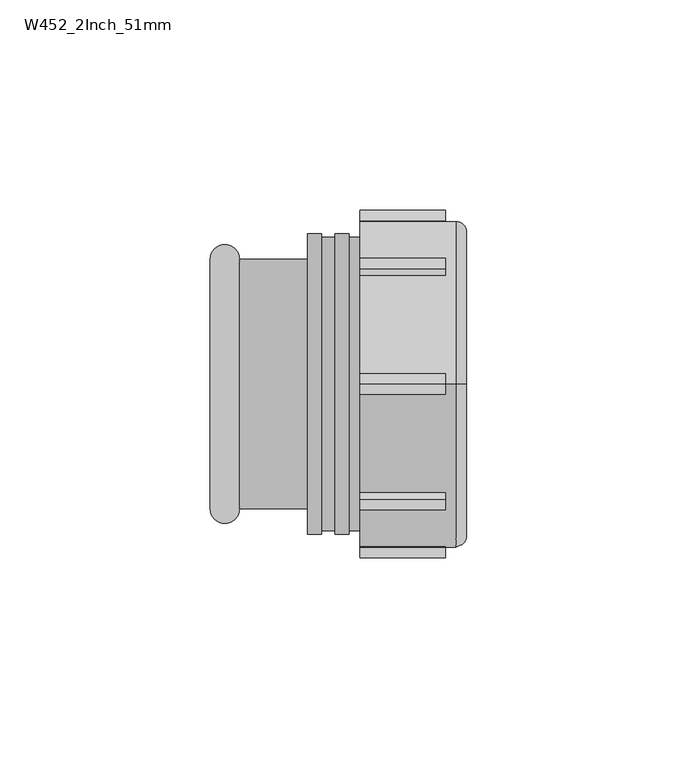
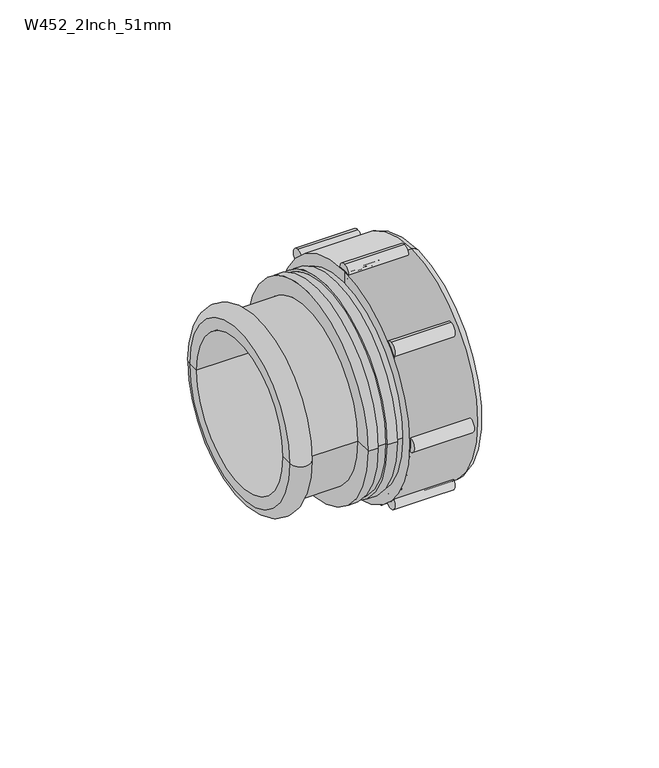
"""IFC4 building model written with IfcOpenShell, lengths in millimetres: pipe fitting geometry, Durapipe_PipeFitting_VulcatheneMechanical_GlassAdaptor_W45 : W452_2Inch_51mm."""

from ifc_helpers import new_model, si_unit, point, frame, frame_2d, origin, place, context, project, spatial, polyline, circle_curve, ellipse_curve, trimmed, segment, composite_curve, outline, extrude, source, transform, mapped, element, save
from ifc_brep_helpers import plane_surface, cylinder_surface, revolved_surface, advanced_brep


def w452_2inch_51mm_18f54544(model_context):
    return source(origin(), model_context, "Body", "SolidModel", [
        advanced_brep(
        [(26.6, 22.839549, 22.839549), (26.6, 21.2839141, 21.2839141), (26.6, -21.2839141, -21.2839141), (26.6, -22.839549, -22.839549), (21.0, 22.3445743, 22.3445743), (21.0, -22.3445743, -22.3445743), (19.6, 21.9203102, 21.9203102), (21.0, 21.9203102, 21.9203102), (21.0, -21.9203102, -21.9203102), (19.6, -21.9203102, -21.9203102), (19.6, -20.9303607, -20.9303607), (19.6, 20.9303607, 20.9303607), (21.9, -20.9303607, -20.9303607), (21.9, 20.9303607, 20.9303607), (21.9, -20.647518, -20.647518), (21.9, 20.647518, 20.647518), (24.1, 21.2839141, 21.2839141), (24.1, 20.647518, 20.647518), (24.1, -20.647518, -20.647518), (24.1, -21.2839141, -21.2839141)],
        [
            (0, 1),
            (1, 2, circle_curve(frame((26.6, 0.0, 0.0), z_axis=(-1.0, 0.0, 0.0), x_axis=(0.0, -0.7071067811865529, -0.7071067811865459)), 30.1)),
            (2, 3),
            (3, 0, circle_curve(frame((26.6, 0.0, 0.0), z_axis=(1.0, 0.0, 0.0), x_axis=(0.0, -0.7071067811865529, -0.7071067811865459)), 32.3)),
            (2, 1, circle_curve(frame((26.6, 0.0, 0.0), z_axis=(-1.0, 0.0, 0.0), x_axis=(0.0, -0.7071067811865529, -0.7071067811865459)), 30.1)),
            (0, 3, circle_curve(frame((26.6, 0.0, 0.0), z_axis=(1.0, 0.0, 0.0), x_axis=(0.0, -0.7071067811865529, -0.7071067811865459)), 32.3)),
            (4, 0),
            (3, 5),
            (5, 4, circle_curve(frame((21.0, 0.0, 0.0), z_axis=(1.0, 0.0, 0.0), x_axis=(0.0, -0.7071067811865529, -0.7071067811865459)), 31.6)),
            (4, 5, circle_curve(frame((21.0, 0.0, 0.0), z_axis=(1.0, 0.0, 0.0), x_axis=(0.0, -0.7071067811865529, -0.7071067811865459)), 31.6)),
            (6, 7),
            (7, 8, circle_curve(frame((21.0, 0.0, 0.0), z_axis=(-1.0, 0.0, 0.0), x_axis=(0.0, -0.7071067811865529, -0.7071067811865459)), 31.0)),
            (8, 9),
            (9, 6, circle_curve(frame((19.6, 0.0, 0.0), z_axis=(1.0, 0.0, 0.0), x_axis=(0.0, -0.7071067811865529, -0.7071067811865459)), 31.0)),
            (8, 7, circle_curve(frame((21.0, 0.0, 0.0), z_axis=(-1.0, 0.0, 0.0), x_axis=(0.0, -0.7071067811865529, -0.7071067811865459)), 31.0)),
            (6, 9, circle_curve(frame((19.6, 0.0, 0.0), z_axis=(1.0, 0.0, 0.0), x_axis=(0.0, -0.7071067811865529, -0.7071067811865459)), 31.0)),
            (9, 10),
            (10, 11, circle_curve(frame((19.6, 0.0, 0.0), z_axis=(1.0, 0.0, 0.0), x_axis=(0.0, -0.7071067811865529, -0.7071067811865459)), 29.6)),
            (11, 6),
            (11, 10, circle_curve(frame((19.6, 0.0, 0.0), z_axis=(1.0, 0.0, 0.0), x_axis=(0.0, -0.7071067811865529, -0.7071067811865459)), 29.6)),
            (10, 12),
            (12, 13, circle_curve(frame((21.9, 0.0, 0.0), z_axis=(1.0, 0.0, 0.0), x_axis=(0.0, -0.7071067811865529, -0.7071067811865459)), 29.6)),
            (13, 11),
            (13, 12, circle_curve(frame((21.9, 0.0, 0.0), z_axis=(1.0, 0.0, 0.0), x_axis=(0.0, -0.7071067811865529, -0.7071067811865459)), 29.6)),
            (12, 14),
            (14, 15, circle_curve(frame((21.9, 0.0, 0.0), z_axis=(1.0, 0.0, 0.0), x_axis=(0.0, -0.7071067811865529, -0.7071067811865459)), 29.2)),
            (15, 13),
            (15, 14, circle_curve(frame((21.9, 0.0, 0.0), z_axis=(1.0, 0.0, 0.0), x_axis=(0.0, -0.7071067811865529, -0.7071067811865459)), 29.2)),
            (16, 17),
            (17, 18, circle_curve(frame((24.1, 0.0, 0.0), z_axis=(-1.0, 0.0, 0.0), x_axis=(0.0, -0.7071067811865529, -0.7071067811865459)), 29.2)),
            (18, 19),
            (19, 16, circle_curve(frame((24.1, 0.0, 0.0), z_axis=(1.0, 0.0, 0.0), x_axis=(0.0, -0.7071067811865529, -0.7071067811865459)), 30.1)),
            (18, 17, circle_curve(frame((24.1, 0.0, 0.0), z_axis=(-1.0, 0.0, 0.0), x_axis=(0.0, -0.7071067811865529, -0.7071067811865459)), 29.2)),
            (16, 19, circle_curve(frame((24.1, 0.0, 0.0), z_axis=(1.0, 0.0, 0.0), x_axis=(0.0, -0.7071067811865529, -0.7071067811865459)), 30.1)),
            (1, 16),
            (19, 2),
            (14, 18),
            (17, 15),
            (5, 8),
            (7, 4),
        ],
        [
            plane_surface(frame((26.6, 0.0, 0.0), z_axis=(1.0, 0.0, 0.0), x_axis=(0.0, -0.707106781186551, -0.707106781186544))),
            revolved_surface(polyline([(26.6, -22.839549, -22.839549), (21.0, -22.3445743, -22.3445743)]), (31.6, 0.0, 0.0), (-1.0000000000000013, 0.0, 0.0)),
            cylinder_surface(frame((17.5293443, 0.0, 0.0), z_axis=(-1.0000000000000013, 0.0, 0.0), x_axis=(0.0, -0.7071067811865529, -0.7071067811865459)), 31.0),
            plane_surface(frame((19.6, 0.0, 0.0), z_axis=(-1.0, 0.0, 0.0), x_axis=(0.0, -0.707106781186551, -0.707106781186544))),
            revolved_surface(polyline([(19.60000000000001, -20.930360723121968, -20.93036072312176), (21.900000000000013, -20.930360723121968, -20.93036072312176)]), (16.107009, 0.0, 0.0), (-1.0000000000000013, 0.0, 0.0)),
            plane_surface(frame((21.9, 0.0, 0.0), z_axis=(-1.0, 0.0, 0.0), x_axis=(0.0, -0.707106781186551, -0.707106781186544))),
            plane_surface(frame((24.1, 0.0, 0.0), z_axis=(1.0, 0.0, 0.0), x_axis=(0.0, -0.707106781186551, -0.707106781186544))),
            revolved_surface(polyline([(24.09999999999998, -21.283914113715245, -21.28391411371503), (26.599999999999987, -21.283914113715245, -21.28391411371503)]), (31.6, 0.0, 0.0), (-1.0000000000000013, 0.0, 0.0)),
            revolved_surface(polyline([(21.899999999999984, -20.647518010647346, -20.64751801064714), (24.09999999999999, -20.647518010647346, -20.64751801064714)]), (28.1661924, 0.0, 0.0), (-1.0000000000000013, 0.0, 0.0)),
            plane_surface(frame((21.0, 0.0, 0.0), z_axis=(-1.0, 0.0, 0.0), x_axis=(0.0, -0.707106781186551, -0.707106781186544))),
        ],
        [
            (0, [[1, 2, 3, 4]]),
            (0, [[5, -1, 6, -3]]),
            (1, [[7, -4, 8, 9]]),
            (1, [[-8, -6, -7, 10]]),
            (2, [[11, 12, 13, 14]]),
            (2, [[15, -11, 16, -13]]),
            (3, [[17, 18, 19, -14]]),
            (3, [[-19, 20, -17, -16]]),
            (4, [[-18, 21, 22, 23]]),
            (4, [[24, -21, -20, -23]]),
            (5, [[25, 26, 27, -22]]),
            (5, [[-27, 28, -25, -24]]),
            (6, [[29, 30, 31, 32]]),
            (6, [[-31, 33, -29, 34]]),
            (7, [[35, -32, 36, -2]]),
            (7, [[-36, -34, -35, -5]]),
            (8, [[-26, 37, -30, 38]]),
            (8, [[-33, -37, -28, -38]]),
            (9, [[39, -12, 40, -9]]),
            (9, [[-40, -15, -39, -10]]),
        ],
    ),
        advanced_brep(
        [(5.1, 0.0, 38.8), (28.0, 0.0, 38.8), (28.0, 0.0, -38.8), (5.1, 0.0, -38.8), (5.1, 0.0, 33.0), (5.1, 0.0, -33.0), (30.5, 0.0, 36.3), (30.5, 0.0, 31.0), (30.5, 0.0, -31.0), (30.5, 0.0, -36.3), (26.6, 0.0, 33.0), (26.6, 0.0, -33.0), (26.6, 0.0, 31.0), (26.6, 0.0, -31.0)],
        [
            (0, 1),
            (1, 2, circle_curve(frame((28.0, 0.0, 0.0), z_axis=(-1.0, 0.0, 0.0), x_axis=(0.0, 0.0, -1.0000000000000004)), 38.8)),
            (2, 3),
            (3, 0, circle_curve(frame((5.1, 0.0, 0.0), z_axis=(1.0, 0.0, 0.0), x_axis=(0.0, 0.0, -1.0000000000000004)), 38.8)),
            (2, 1, circle_curve(frame((28.0, 0.0, 0.0), z_axis=(-1.0, 0.0, 0.0), x_axis=(0.0, 0.0, -1.0000000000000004)), 38.8)),
            (0, 3, circle_curve(frame((5.1, 0.0, 0.0), z_axis=(1.0, 0.0, 0.0), x_axis=(0.0, 0.0, -1.0000000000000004)), 38.8)),
            (4, 0),
            (3, 5),
            (5, 4, circle_curve(frame((5.1, 0.0, 0.0), z_axis=(1.0, 0.0, 0.0), x_axis=(0.0, 0.0, -1.0000000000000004)), 33.0)),
            (4, 5, circle_curve(frame((5.1, 0.0, 0.0), z_axis=(1.0, 0.0, 0.0), x_axis=(0.0, 0.0, -1.0000000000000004)), 33.0)),
            (6, 7),
            (7, 8, circle_curve(frame((30.5, 0.0, 0.0), z_axis=(-1.0, 0.0, 0.0), x_axis=(0.0, 0.0, -1.0000000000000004)), 31.0)),
            (8, 9),
            (9, 6, circle_curve(frame((30.5, 0.0, 0.0), z_axis=(1.0, 0.0, 0.0), x_axis=(0.0, 0.0, -1.0000000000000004)), 36.3)),
            (8, 7, circle_curve(frame((30.5, 0.0, 0.0), z_axis=(-1.0, 0.0, 0.0), x_axis=(0.0, 0.0, -1.0000000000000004)), 31.0)),
            (6, 9, circle_curve(frame((30.5, 0.0, 0.0), z_axis=(1.0, 0.0, 0.0), x_axis=(0.0, 0.0, -1.0000000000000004)), 36.3)),
            (1, 6, circle_curve(frame((28.0, 0.0, 36.3), z_axis=(0.0, 1.0000000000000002, 0.0), x_axis=(1.0000000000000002, 0.0, 0.0)), 2.5)),
            (9, 2, circle_curve(frame((28.0, 0.0, -36.3), z_axis=(0.0, 1.0000000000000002, 0.0), x_axis=(1.0000000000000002, 0.0, 0.0)), 2.5)),
            (10, 4),
            (5, 11),
            (11, 10, circle_curve(frame((26.6, 0.0, 0.0), z_axis=(1.0, 0.0, 0.0), x_axis=(0.0, 0.0, -1.0000000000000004)), 33.0)),
            (10, 11, circle_curve(frame((26.6, 0.0, 0.0), z_axis=(1.0, 0.0, 0.0), x_axis=(0.0, 0.0, -1.0000000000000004)), 33.0)),
            (12, 10),
            (11, 13),
            (13, 12, circle_curve(frame((26.6, 0.0, 0.0), z_axis=(1.0, 0.0, 0.0), x_axis=(0.0, 0.0, -1.0000000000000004)), 31.0)),
            (12, 13, circle_curve(frame((26.6, 0.0, 0.0), z_axis=(1.0, 0.0, 0.0), x_axis=(0.0, 0.0, -1.0000000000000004)), 31.0)),
            (7, 12),
            (13, 8),
        ],
        [
            cylinder_surface(frame((1591.3018184, 0.0, 0.0), z_axis=(-1.0000000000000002, 0.0, 0.0), x_axis=(0.0, 0.0, -1.0000000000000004)), 38.8),
            plane_surface(frame((5.1, 0.0, 0.0), z_axis=(-1.0, 0.0, 0.0), x_axis=(0.0, 0.0, -1.0))),
            plane_surface(frame((30.5, 0.0, 0.0), z_axis=(1.0, 0.0, 0.0), x_axis=(0.0, 0.0, -1.0))),
            revolved_surface(trimmed(ellipse_curve(frame((28.0, 0.0, -36.3), z_axis=(0.0, 1.0000000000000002, 0.0), x_axis=(1.0000000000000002, 0.0, 0.0)), 2.5, 2.5), [point((30.5, 0.0, -36.3))], [point((28.0, 0.0, -38.8))], True, "CARTESIAN"), (1591.3018184, 0.0, 0.0), (-1.0000000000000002, 0.0, 0.0)),
            revolved_surface(polyline([(5.0999999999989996, 0.0, -33.000000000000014), (26.599999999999, 0.0, -33.000000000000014)]), (1591.3018184, 0.0, 0.0), (-1.0000000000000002, 0.0, 0.0)),
            plane_surface(frame((26.6, 0.0, 0.0), z_axis=(-1.0, 0.0, 0.0), x_axis=(0.0, 0.0, -1.0))),
            revolved_surface(polyline([(26.599999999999, 0.0, -31.000000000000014), (30.49999999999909, 0.0, -31.000000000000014)]), (1591.3018184, 0.0, 0.0), (-1.0000000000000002, 0.0, 0.0)),
        ],
        [
            (0, [[1, 2, 3, 4]]),
            (0, [[-3, 5, -1, 6]]),
            (1, [[7, -4, 8, 9]]),
            (1, [[-8, -6, -7, 10]]),
            (2, [[11, 12, 13, 14]]),
            (2, [[-13, 15, -11, 16]]),
            (3, [[17, -14, 18, -2]]),
            (3, [[-18, -16, -17, -5]]),
            (4, [[19, -9, 20, 21]]),
            (4, [[-20, -10, -19, 22]]),
            (5, [[23, -21, 24, 25]]),
            (5, [[-24, -22, -23, 26]]),
            (6, [[27, -25, 28, -12]]),
            (6, [[-28, -26, -27, -15]]),
        ],
    ),
        extrude(outline(composite_curve([segment(trimmed(circle_curve(frame_2d((-38.8, 0.0)), 2.5), [point((-38.8, 2.5))], [point((-38.8, -2.5))], False, "CARTESIAN"), True, "CONTINUOUS"), segment(trimmed(circle_curve(frame_2d((-38.8, 0.0)), 2.5), [point((-38.8, -2.5))], [point((-38.8, 2.5))], False, "CARTESIAN"), True, "CONTINUOUS")], self_intersect=False)), frame((5.1, 0.0, 0.0), z_axis=(1.0, 0.0, 0.0), x_axis=(0.0, 1.0, 0.0)), (0.0, 0.0, 1.0), 20.4),
        extrude(outline(composite_curve([segment(trimmed(circle_curve(frame_2d((-27.4357431, -27.4357431)), 2.5), [point((-27.4357431, -24.9357431))], [point((-27.4357431, -29.9357431))], False, "CARTESIAN"), True, "CONTINUOUS"), segment(trimmed(circle_curve(frame_2d((-27.4357431, -27.4357431)), 2.5), [point((-27.4357431, -29.9357431))], [point((-27.4357431, -24.9357431))], False, "CARTESIAN"), True, "CONTINUOUS")], self_intersect=False)), frame((5.1, 0.0, 0.0), z_axis=(1.0, 0.0, 0.0), x_axis=(0.0, 1.0, 0.0)), (0.0, 0.0, 1.0), 20.4),
        extrude(outline(composite_curve([segment(trimmed(circle_curve(frame_2d((0.0, -38.8)), 2.5), [point((0.0, -36.3))], [point((0.0, -41.3))], False, "CARTESIAN"), True, "CONTINUOUS"), segment(trimmed(circle_curve(frame_2d((0.0, -38.8)), 2.5), [point((0.0, -41.3))], [point((0.0, -36.3))], False, "CARTESIAN"), True, "CONTINUOUS")], self_intersect=False)), frame((5.1, 0.0, 0.0), z_axis=(1.0, 0.0, 0.0), x_axis=(0.0, 1.0, 0.0)), (0.0, 0.0, 1.0), 20.4),
        extrude(outline(composite_curve([segment(trimmed(circle_curve(frame_2d((27.4357431, -27.4357431)), 2.5), [point((27.4357431, -24.9357431))], [point((27.4357431, -29.9357431))], False, "CARTESIAN"), True, "CONTINUOUS"), segment(trimmed(circle_curve(frame_2d((27.4357431, -27.4357431)), 2.5), [point((27.4357431, -29.9357431))], [point((27.4357431, -24.9357431))], False, "CARTESIAN"), True, "CONTINUOUS")], self_intersect=False)), frame((5.1, 0.0, 0.0), z_axis=(1.0, 0.0, 0.0), x_axis=(0.0, 1.0, 0.0)), (0.0, 0.0, 1.0), 20.4),
        extrude(outline(composite_curve([segment(trimmed(circle_curve(frame_2d((38.8, 0.0)), 2.5), [point((38.8, 2.5))], [point((38.8, -2.5))], False, "CARTESIAN"), True, "CONTINUOUS"), segment(trimmed(circle_curve(frame_2d((38.8, 0.0)), 2.5), [point((38.8, -2.5))], [point((38.8, 2.5))], False, "CARTESIAN"), True, "CONTINUOUS")], self_intersect=False)), frame((5.1, 0.0, 0.0), z_axis=(1.0, 0.0, 0.0), x_axis=(0.0, 1.0, 0.0)), (0.0, 0.0, 1.0), 20.4),
        extrude(outline(composite_curve([segment(trimmed(circle_curve(frame_2d((27.4357431, 27.4357431)), 2.5), [point((27.4357431, 29.9357431))], [point((27.4357431, 24.9357431))], False, "CARTESIAN"), True, "CONTINUOUS"), segment(trimmed(circle_curve(frame_2d((27.4357431, 27.4357431)), 2.5), [point((27.4357431, 24.9357431))], [point((27.4357431, 29.9357431))], False, "CARTESIAN"), True, "CONTINUOUS")], self_intersect=False)), frame((5.1, 0.0, 0.0), z_axis=(1.0, 0.0, 0.0), x_axis=(0.0, 1.0, 0.0)), (0.0, 0.0, 1.0), 20.4),
        extrude(outline(composite_curve([segment(trimmed(circle_curve(frame_2d((0.0, 38.8)), 2.5), [point((0.0, 41.3))], [point((0.0, 36.3))], False, "CARTESIAN"), True, "CONTINUOUS"), segment(trimmed(circle_curve(frame_2d((0.0, 38.8)), 2.5), [point((0.0, 36.3))], [point((0.0, 41.3))], False, "CARTESIAN"), True, "CONTINUOUS")], self_intersect=False)), frame((5.1, 0.0, 0.0), z_axis=(1.0, 0.0, 0.0), x_axis=(0.0, 1.0, 0.0)), (0.0, 0.0, 1.0), 20.4),
        extrude(outline(composite_curve([segment(trimmed(circle_curve(frame_2d((-27.4357431, 27.4357431)), 2.5), [point((-27.4357431, 29.9357431))], [point((-27.4357431, 24.9357431))], False, "CARTESIAN"), True, "CONTINUOUS"), segment(trimmed(circle_curve(frame_2d((-27.4357431, 27.4357431)), 2.5), [point((-27.4357431, 24.9357431))], [point((-27.4357431, 29.9357431))], False, "CARTESIAN"), True, "CONTINUOUS")], self_intersect=False)), frame((5.1, 0.0, 0.0), z_axis=(1.0, 0.0, 0.0), x_axis=(0.0, 1.0, 0.0)), (0.0, 0.0, 1.0), 20.4),
        advanced_brep(
        [(-1.0, -30.45, 0.0), (-1.0, 30.45, 0.0), (-1.0, 25.65, 0.0), (-1.0, -25.65, 0.0), (26.5, -30.45, 0.0), (26.5, 30.45, 0.0), (26.5, -34.9, 0.0), (26.5, 34.9, 0.0), (2.5, -34.9, 0.0), (2.5, 34.9, 0.0), (2.5, -35.7, 0.0), (2.5, 35.7, 0.0), (-0.8, -35.7, 0.0), (-0.8, 35.7, 0.0), (-0.8, -34.9, 0.0), (-0.8, 34.9, 0.0), (-4.0, -34.9, 0.0), (-4.0, 34.9, 0.0), (-4.0, -35.7, 0.0), (-4.0, 35.7, 0.0), (-7.3, -35.7, 0.0), (-7.3, 35.7, 0.0), (-7.3, -29.65, 0.0), (-7.3, 29.65, 0.0), (-23.5, -29.65, 0.0), (-23.5, 29.65, 0.0), (-30.5, -29.65, 0.0), (-30.5, 29.65, 0.0), (-30.5, -25.65, 0.0), (-30.5, 25.65, 0.0)],
        [
            (0, 1, circle_curve(frame((-1.0, 0.0, 0.0), z_axis=(1.0, 0.0, 0.0), x_axis=(0.0, 1.0, 0.0)), 30.45)),
            (1, 2),
            (2, 3, circle_curve(frame((-1.0, 0.0, 0.0), z_axis=(-1.0, 0.0, 0.0), x_axis=(0.0, 1.0, 0.0)), 25.65)),
            (3, 0),
            (1, 0, circle_curve(frame((-1.0, 0.0, 0.0), z_axis=(1.0, 0.0, 0.0), x_axis=(0.0, 1.0, 0.0)), 30.45)),
            (3, 2, circle_curve(frame((-1.0, 0.0, 0.0), z_axis=(-1.0, 0.0, 0.0), x_axis=(0.0, 1.0, 0.0)), 25.65)),
            (4, 5, circle_curve(frame((26.5, 0.0, 0.0), z_axis=(1.0, 0.0, 0.0), x_axis=(0.0, 1.0, 0.0)), 30.45)),
            (5, 1),
            (0, 4),
            (5, 4, circle_curve(frame((26.5, 0.0, 0.0), z_axis=(1.0, 0.0, 0.0), x_axis=(0.0, 1.0, 0.0)), 30.45)),
            (6, 7, circle_curve(frame((26.5, 0.0, 0.0), z_axis=(1.0, 0.0, 0.0), x_axis=(0.0, 1.0, 0.0)), 34.9)),
            (7, 5),
            (4, 6),
            (7, 6, circle_curve(frame((26.5, 0.0, 0.0), z_axis=(1.0, 0.0, 0.0), x_axis=(0.0, 1.0, 0.0)), 34.9)),
            (8, 9, circle_curve(frame((2.5, 0.0, 0.0), z_axis=(1.0, 0.0, 0.0), x_axis=(0.0, 1.0, 0.0)), 34.9)),
            (9, 7),
            (6, 8),
            (9, 8, circle_curve(frame((2.5, 0.0, 0.0), z_axis=(1.0, 0.0, 0.0), x_axis=(0.0, 1.0, 0.0)), 34.9)),
            (10, 11, circle_curve(frame((2.5, 0.0, 0.0), z_axis=(1.0, 0.0, 0.0), x_axis=(0.0, 1.0, 0.0)), 35.7)),
            (11, 9),
            (8, 10),
            (11, 10, circle_curve(frame((2.5, 0.0, 0.0), z_axis=(1.0, 0.0, 0.0), x_axis=(0.0, 1.0, 0.0)), 35.7)),
            (12, 13, circle_curve(frame((-0.8, 0.0, 0.0), z_axis=(1.0, 0.0, 0.0), x_axis=(0.0, 1.0, 0.0)), 35.7)),
            (13, 11),
            (10, 12),
            (13, 12, circle_curve(frame((-0.8, 0.0, 0.0), z_axis=(1.0, 0.0, 0.0), x_axis=(0.0, 1.0, 0.0)), 35.7)),
            (14, 15, circle_curve(frame((-0.8, 0.0, 0.0), z_axis=(1.0, 0.0, 0.0), x_axis=(0.0, 1.0, 0.0)), 34.9)),
            (15, 13),
            (12, 14),
            (15, 14, circle_curve(frame((-0.8, 0.0, 0.0), z_axis=(1.0, 0.0, 0.0), x_axis=(0.0, 1.0, 0.0)), 34.9)),
            (16, 17, circle_curve(frame((-4.0, 0.0, 0.0), z_axis=(1.0, 0.0, 0.0), x_axis=(0.0, 1.0, 0.0)), 34.9)),
            (17, 15),
            (14, 16),
            (17, 16, circle_curve(frame((-4.0, 0.0, 0.0), z_axis=(1.0, 0.0, 0.0), x_axis=(0.0, 1.0, 0.0)), 34.9)),
            (18, 19, circle_curve(frame((-4.0, 0.0, 0.0), z_axis=(1.0, 0.0, 0.0), x_axis=(0.0, 1.0, 0.0)), 35.7)),
            (19, 17),
            (16, 18),
            (19, 18, circle_curve(frame((-4.0, 0.0, 0.0), z_axis=(1.0, 0.0, 0.0), x_axis=(0.0, 1.0, 0.0)), 35.7)),
            (20, 21, circle_curve(frame((-7.3, 0.0, 0.0), z_axis=(1.0, 0.0, 0.0), x_axis=(0.0, 1.0, 0.0)), 35.7)),
            (21, 19),
            (18, 20),
            (21, 20, circle_curve(frame((-7.3, 0.0, 0.0), z_axis=(1.0, 0.0, 0.0), x_axis=(0.0, 1.0, 0.0)), 35.7)),
            (22, 23, circle_curve(frame((-7.3, 0.0, 0.0), z_axis=(1.0, 0.0, 0.0), x_axis=(0.0, 1.0, 0.0)), 29.65)),
            (23, 21),
            (20, 22),
            (23, 22, circle_curve(frame((-7.3, 0.0, 0.0), z_axis=(1.0, 0.0, 0.0), x_axis=(0.0, 1.0, 0.0)), 29.65)),
            (24, 25, circle_curve(frame((-23.5, 0.0, 0.0), z_axis=(1.0, 0.0, 0.0), x_axis=(0.0, 1.0, 0.0)), 29.65)),
            (25, 23),
            (22, 24),
            (25, 24, circle_curve(frame((-23.5, 0.0, 0.0), z_axis=(1.0, 0.0, 0.0), x_axis=(0.0, 1.0, 0.0)), 29.65)),
            (26, 27, circle_curve(frame((-30.5, 0.0, 0.0), z_axis=(1.0, 0.0, 0.0), x_axis=(0.0, 1.0, 0.0)), 29.65)),
            (27, 25, circle_curve(frame((-27.0, 29.65, 0.0), z_axis=(0.0, 0.0, -1.0), x_axis=(1.0, 0.0, 0.0)), 3.5)),
            (24, 26, circle_curve(frame((-27.0, -29.65, 0.0), z_axis=(0.0, 0.0, -1.0), x_axis=(1.0, 0.0, 0.0)), 3.5)),
            (27, 26, circle_curve(frame((-30.5, 0.0, 0.0), z_axis=(1.0, 0.0, 0.0), x_axis=(0.0, 1.0, 0.0)), 29.65)),
            (28, 29, circle_curve(frame((-30.5, 0.0, 0.0), z_axis=(1.0, 0.0, 0.0), x_axis=(0.0, 1.0, 0.0)), 25.65)),
            (29, 27),
            (26, 28),
            (29, 28, circle_curve(frame((-30.5, 0.0, 0.0), z_axis=(1.0, 0.0, 0.0), x_axis=(0.0, 1.0, 0.0)), 25.65)),
            (2, 29),
            (28, 3),
        ],
        [
            plane_surface(frame((-1.0, 0.0, 0.0), z_axis=(1.0, 0.0, 0.0), x_axis=(0.0, 1.0, 0.0))),
            revolved_surface(polyline([(-1.0, 30.45, 0.0), (26.5, 30.45, 0.0)]), (-55.5, 0.0, 0.0), (-1.0, 0.0, 0.0)),
            plane_surface(frame((26.5, 0.0, 0.0), z_axis=(1.0, 0.0, 0.0), x_axis=(0.0, 1.0, 0.0))),
            cylinder_surface(frame((-55.5, 0.0, 0.0), z_axis=(-1.0, 0.0, 0.0), x_axis=(0.0, 1.0, 0.0)), 34.9),
            plane_surface(frame((2.5, 0.0, 0.0), z_axis=(1.0, 0.0, 0.0), x_axis=(0.0, 1.0, 0.0))),
            cylinder_surface(frame((-55.5, 0.0, 0.0), z_axis=(-1.0, 0.0, 0.0), x_axis=(0.0, 1.0, 0.0)), 35.7),
            plane_surface(frame((-0.8, 0.0, 0.0), z_axis=(-1.0, 0.0, 0.0), x_axis=(0.0, 1.0, 0.0))),
            plane_surface(frame((-4.0, 0.0, 0.0), z_axis=(1.0, 0.0, 0.0), x_axis=(0.0, 1.0, 0.0))),
            plane_surface(frame((-7.3, 0.0, 0.0), z_axis=(-1.0, 0.0, 0.0), x_axis=(0.0, 1.0, 0.0))),
            cylinder_surface(frame((-55.5, 0.0, 0.0), z_axis=(-1.0, 0.0, 0.0), x_axis=(0.0, 1.0, 0.0)), 29.65),
            revolved_surface(trimmed(ellipse_curve(frame((-27.0, 29.65, 0.0), z_axis=(0.0, 0.0, 1.0), x_axis=(1.0, 0.0, 0.0)), 3.5, 3.5), [point((-23.5, 29.65, 0.0))], [point((-30.5, 29.65, 0.0))], True, "CARTESIAN"), (-55.5, 0.0, 0.0), (-1.0, 0.0, 0.0)),
            plane_surface(frame((-30.5, 0.0, 0.0), z_axis=(-1.0, 0.0, 0.0), x_axis=(0.0, 1.0, 0.0))),
            revolved_surface(polyline([(-30.5, 25.65, 0.0), (-1.0, 25.65, 0.0)]), (-55.5, 0.0, 0.0), (-1.0, 0.0, 0.0)),
        ],
        [
            (0, [[1, 2, 3, 4]]),
            (0, [[5, -4, 6, -2]]),
            (1, [[7, 8, -1, 9]]),
            (1, [[10, -9, -5, -8]]),
            (2, [[11, 12, -7, 13]]),
            (2, [[14, -13, -10, -12]]),
            (3, [[15, 16, -11, 17]]),
            (3, [[18, -17, -14, -16]]),
            (4, [[19, 20, -15, 21]]),
            (4, [[22, -21, -18, -20]]),
            (5, [[23, 24, -19, 25]]),
            (5, [[26, -25, -22, -24]]),
            (6, [[27, 28, -23, 29]]),
            (6, [[30, -29, -26, -28]]),
            (3, [[31, 32, -27, 33]]),
            (3, [[34, -33, -30, -32]]),
            (7, [[35, 36, -31, 37]]),
            (7, [[38, -37, -34, -36]]),
            (5, [[39, 40, -35, 41]]),
            (5, [[42, -41, -38, -40]]),
            (8, [[43, 44, -39, 45]]),
            (8, [[46, -45, -42, -44]]),
            (9, [[47, 48, -43, 49]]),
            (9, [[50, -49, -46, -48]]),
            (10, [[51, 52, -47, 53]]),
            (10, [[54, -53, -50, -52]]),
            (11, [[55, 56, -51, 57]]),
            (11, [[58, -57, -54, -56]]),
            (12, [[-3, 59, -55, 60]]),
            (12, [[-6, -60, -58, -59]]),
        ],
    ),
    ])


if __name__ == "__main__":
    model = new_model("IFC4")
    model_context = context("Model", 3, world=origin())
    ifc_project = project(units=[si_unit("LENGTHUNIT", "METRE", prefix="MILLI")], contexts=[model_context])
    site = spatial("IfcSite", under=ifc_project)
    building = spatial("IfcBuilding", under=site)
    placement = place(None, origin())
    w452_2inch_51mm_shape = w452_2inch_51mm_18f54544(model_context)
    element("IfcPipeFitting", 1, ObjectType="Durapipe_PipeFitting_VulcatheneMechanical_GlassAdaptor_W45 : W452_2Inch_51mm", at=placement, inside=building, context=model_context, shape_type="MappedRepresentation", body=[
        mapped(w452_2inch_51mm_shape, transform((0.0, 0.0, 0.0), x_axis=(1.0, 0.0, 0.0), y_axis=(0.0, 1.0, 0.0), z_axis=(0.0, 0.0, 1.0))),
    ])
    save(model, "model.ifc")
